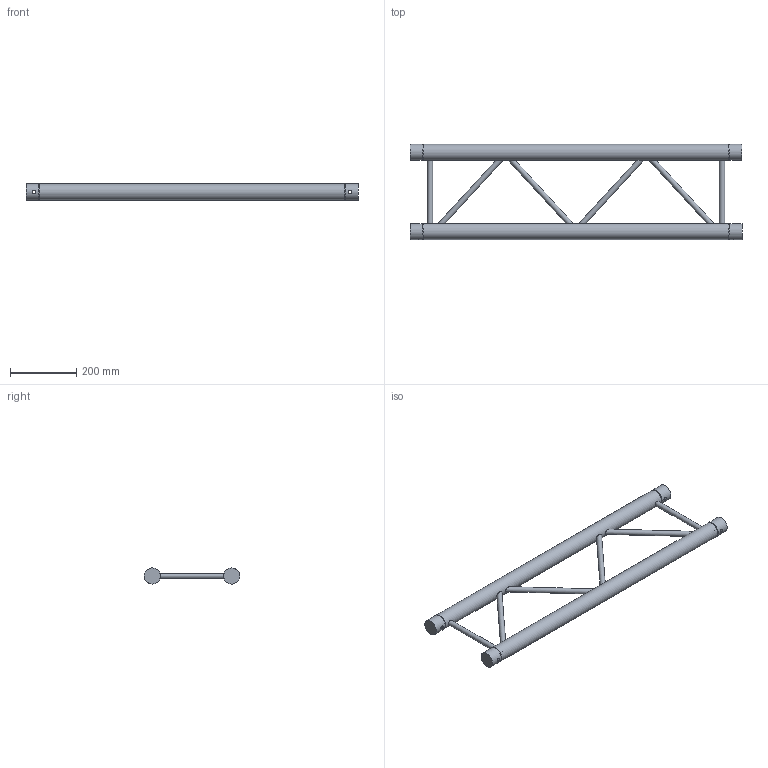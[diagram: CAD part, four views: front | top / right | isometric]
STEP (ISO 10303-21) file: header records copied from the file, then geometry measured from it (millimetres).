
FILE_DESCRIPTION(/* description */ (''),/* implementation_level */ '2;1');
FILE_NAME(/* name */ 'C:\Users\stephan\Desktop\Nieuwe map\H30L\111050041.stp',/* time_stamp */ '2016-09-12T11:47:49+02:00',/* author */ ('Stephan'),/* organization */ (''),/* preprocessor_version */ 'ST-DEVELOPER v15.6',/* originating_system */ 'Autodesk Inventor 2015',/* authorisation */ '');
FILE_SCHEMA (('AUTOMOTIVE_DESIGN { 1 0 10303 214 3 1 1 }'));
Length unit declared in the file: millimetre
Products named in the file (1): 160026967
Bounding box: 1000 x 287.3 x 48.3 mm (x, y, z)
Volume: 1399350.5 mm3; surface area: 647074 mm2
Topology: 8 solids, 10 shells, 74 faces, 134 edges, 84 vertices
Faces by surface type: plane 40, cylinder 30, cone 4
Full cylindrical faces by diameter (mm): 10 x4, 16 x6, 41.8 x4, 42.3 x2, 48.3 x6
Entity records: 2074 total; most frequent: CARTESIAN_POINT 615, DIRECTION 258, ORIENTED_EDGE 216, EDGE_LOOP 120, AXIS2_PLACEMENT_3D 119, EDGE_CURVE 104, VERTEX_POINT 84, STYLED_ITEM 67
